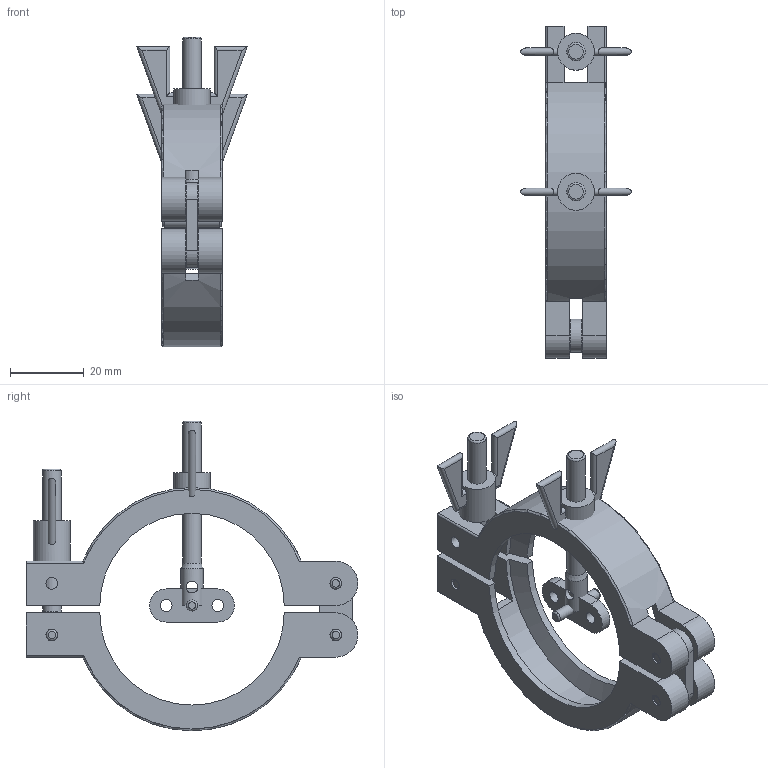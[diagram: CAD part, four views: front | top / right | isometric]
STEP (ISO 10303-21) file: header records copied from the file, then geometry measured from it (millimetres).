
FILE_DESCRIPTION( ( 'Unknown' ), '1' );
FILE_NAME( 'C:/Dokumente und Einstellungen/Viktor/Desktop/1303/1303.stp', 'Unknown', ( 'Unknown' ), ( 'Unknown' ), 'XStep 1.0', 'Unknown', ' ' );
FILE_SCHEMA( ( 'CONFIG_CONTROL_DESIGN' ) );
Length unit declared in the file: millimetre
Products named in the file (5): Assem1; 1303-1; 1301-2; 1301-4; 1301-3
Bounding box: 30 x 90 x 84 mm (x, y, z)
Volume: 32223.2 mm3; surface area: 25998.9 mm2
Topology: 11 solids, 11 shells, 188 faces, 467 edges, 305 vertices
Faces by surface type: plane 86, cylinder 78, torus 16, cone 8
Full cylindrical faces by diameter (mm): 3 x4, 3.2 x18, 5 x4, 6 x2, 10 x2
Entity records: 2449 total; most frequent: CARTESIAN_POINT 536, DIRECTION 364, ORIENTED_EDGE 310, EDGE_CURVE 155, AXIS2_PLACEMENT_3D 139, VERTEX_POINT 111, EDGE_LOOP 106, FACE_OUTER_BOUND 87
